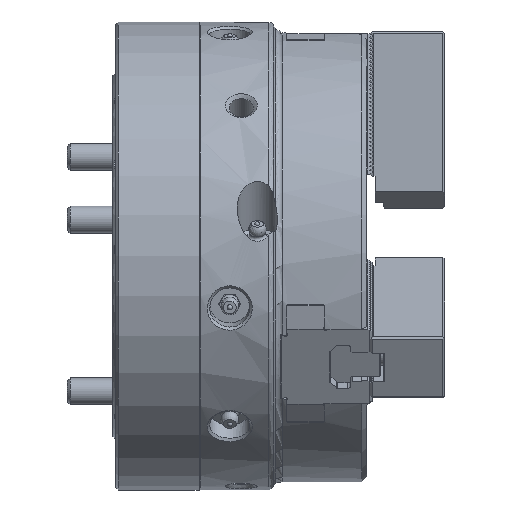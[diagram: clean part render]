
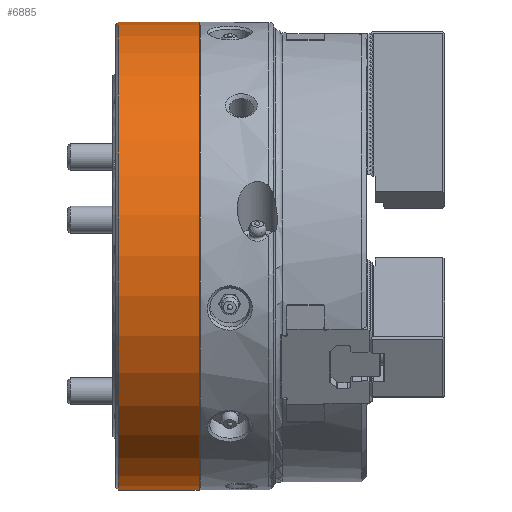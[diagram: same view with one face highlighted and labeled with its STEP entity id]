
A CAD part, top view. The second image highlights one B-rep face of the part: STEP entity #6885.
In plain terms, the highlighted cylindrical face has radius 87.5 mm (diameter 175 mm), a full revolution.
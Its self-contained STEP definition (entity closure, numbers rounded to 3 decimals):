
#1992 = CARTESIAN_POINT ( 'NONE',  ( -98.968, 0., 0. ) ) ;
#6560 = AXIS2_PLACEMENT_3D ( 'NONE', #28863, #55435, #31379 ) ;
#6885 = ADVANCED_FACE ( 'NONE', ( #35677, #9578, #10146 ), #43382, .T. ) ;
#9578 = FACE_OUTER_BOUND ( 'NONE', #46054, .T. ) ;
#10146 = FACE_BOUND ( 'NONE', #46008, .T. ) ;
#11883 = VERTEX_POINT ( 'NONE', #72951 ) ;
#12197 = CARTESIAN_POINT ( 'NONE',  ( -68., -43.316, -76.026 ) ) ;
#13174 = AXIS2_PLACEMENT_3D ( 'NONE', #1992, #19364, #26968 ) ;
#13217 = VERTEX_POINT ( 'NONE', #80174 ) ;
#14364 = CARTESIAN_POINT ( 'NONE',  ( -68., -44.182, -75.526 ) ) ;
#18330 = DIRECTION ( 'NONE',  ( -1., 0., 0. ) ) ;
#19364 = DIRECTION ( 'NONE',  ( -1., 0., 0. ) ) ;
#19854 = DIRECTION ( 'NONE',  ( -1., 0., 0. ) ) ;
#21994 = CARTESIAN_POINT ( 'NONE',  ( -68., 0., 0. ) ) ;
#22602 = EDGE_LOOP ( 'NONE', ( #48846 ) ) ;
#26968 = DIRECTION ( 'NONE',  ( 0., -1., 0. ) ) ;
#28084 = EDGE_CURVE ( 'NONE', #74397, #83532, #75361, .T. ) ;
#28754 = CARTESIAN_POINT ( 'NONE',  ( -98.968, -44.182, -75.526 ) ) ;
#28863 = CARTESIAN_POINT ( 'NONE',  ( -62.8, 0., 0. ) ) ;
#31379 = DIRECTION ( 'NONE',  ( 0., -1., 0. ) ) ;
#31816 = EDGE_CURVE ( 'NONE', #42859, #42859, #74162, .T. ) ;
#32132 = CARTESIAN_POINT ( 'NONE',  ( -73., 0., 0. ) ) ;
#33624 = EDGE_CURVE ( 'NONE', #83532, #55634, #86561, .T. ) ;
#35167 = CARTESIAN_POINT ( 'NONE',  ( -93., 0., 0. ) ) ;
#35677 = FACE_OUTER_BOUND ( 'NONE', #22602, .T. ) ;
#35710 = CARTESIAN_POINT ( 'NONE',  ( -93., -87.5, 0. ) ) ;
#37827 = ORIENTED_EDGE ( 'NONE', *, *, #47532, .F. ) ;
#42859 = VERTEX_POINT ( 'NONE', #35710 ) ;
#43382 = CYLINDRICAL_SURFACE ( 'NONE', #13174, 87.5 ) ;
#46008 = EDGE_LOOP ( 'NONE', ( #92541, #37827, #55019, #57047 ) ) ;
#46054 = EDGE_LOOP ( 'NONE', ( #73853 ) ) ;
#47532 = EDGE_CURVE ( 'NONE', #55634, #11883, #96819, .T. ) ;
#48846 = ORIENTED_EDGE ( 'NONE', *, *, #56353, .T. ) ;
#53612 = CIRCLE ( 'NONE', #6560, 87.5 ) ;
#55019 = ORIENTED_EDGE ( 'NONE', *, *, #33624, .F. ) ;
#55435 = DIRECTION ( 'NONE',  ( -1., 0., 0. ) ) ;
#55634 = VERTEX_POINT ( 'NONE', #101263 ) ;
#56353 = EDGE_CURVE ( 'NONE', #13217, #13217, #53612, .T. ) ;
#57047 = ORIENTED_EDGE ( 'NONE', *, *, #28084, .F. ) ;
#60221 = LINE ( 'NONE', #61287, #93586 ) ;
#61287 = CARTESIAN_POINT ( 'NONE',  ( -98.968, -43.316, -76.026 ) ) ;
#65420 = DIRECTION ( 'NONE',  ( 1., 0., 0. ) ) ;
#67325 = DIRECTION ( 'NONE',  ( 0., -1., 0. ) ) ;
#69637 = DIRECTION ( 'NONE',  ( -1., 0., 0. ) ) ;
#70146 = AXIS2_PLACEMENT_3D ( 'NONE', #21994, #73662, #106969 ) ;
#72951 = CARTESIAN_POINT ( 'NONE',  ( -73., -43.316, -76.026 ) ) ;
#73662 = DIRECTION ( 'NONE',  ( -1., 0., 0. ) ) ;
#73853 = ORIENTED_EDGE ( 'NONE', *, *, #31816, .F. ) ;
#74162 = CIRCLE ( 'NONE', #100341, 87.5 ) ;
#74397 = VERTEX_POINT ( 'NONE', #12197 ) ;
#74642 = DIRECTION ( 'NONE',  ( 0., 0., -1. ) ) ;
#75361 = CIRCLE ( 'NONE', #70146, 87.5 ) ;
#75889 = AXIS2_PLACEMENT_3D ( 'NONE', #32132, #65420, #74642 ) ;
#76408 = VECTOR ( 'NONE', #69637, 1000. ) ;
#80174 = CARTESIAN_POINT ( 'NONE',  ( -62.8, -87.5, 0. ) ) ;
#83532 = VERTEX_POINT ( 'NONE', #14364 ) ;
#86561 = LINE ( 'NONE', #28754, #76408 ) ;
#92541 = ORIENTED_EDGE ( 'NONE', *, *, #104487, .T. ) ;
#93586 = VECTOR ( 'NONE', #19854, 1000. ) ;
#96819 = CIRCLE ( 'NONE', #75889, 87.5 ) ;
#100341 = AXIS2_PLACEMENT_3D ( 'NONE', #35167, #18330, #67325 ) ;
#101263 = CARTESIAN_POINT ( 'NONE',  ( -73., -44.182, -75.526 ) ) ;
#104487 = EDGE_CURVE ( 'NONE', #74397, #11883, #60221, .T. ) ;
#106969 = DIRECTION ( 'NONE',  ( 0., 0., 1. ) ) ;
